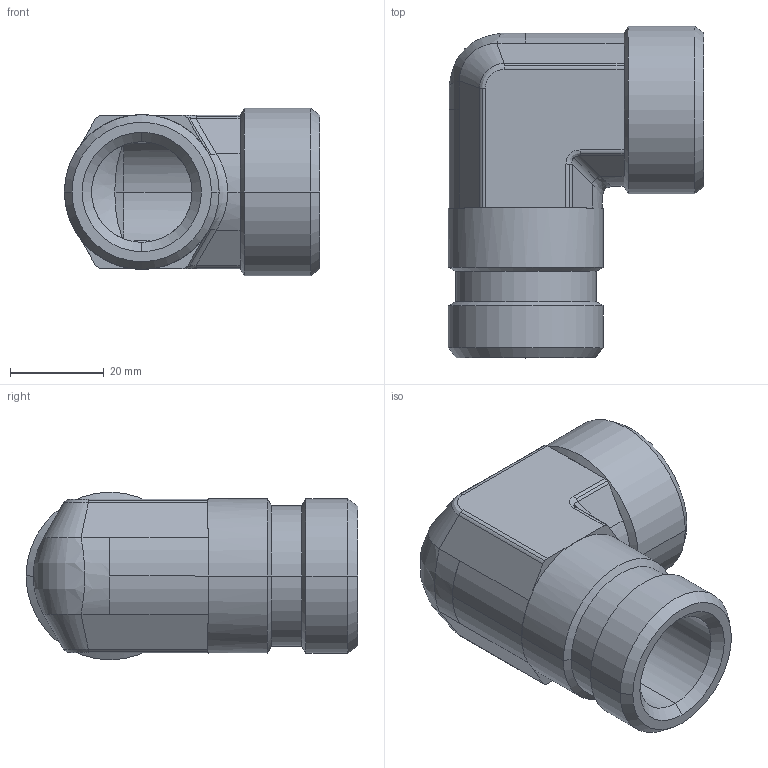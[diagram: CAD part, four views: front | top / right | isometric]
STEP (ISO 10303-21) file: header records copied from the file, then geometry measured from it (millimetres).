
FILE_DESCRIPTION((''),'2;1');
FILE_NAME('106111.stp','2007-10-31T14:50:24',(''),(''),'AutoCAD STEP 2000i','AutoCAD 2000i',', , ');
FILE_SCHEMA(('CONFIG_CONTROL_DESIGN'));
Length unit declared in the file: millimetre
Products named in the file (2): 106111.0; 3090#0
Assembly tree (1 placements, depth 2):
  106111.0
    3090#0
Bounding box: 54.53 x 70.91 x 35.82 mm (x, y, z)
Volume: 42497.2 mm3; surface area: 17139.5 mm2
Topology: 1 solids, 1 shells, 108 faces, 257 edges, 154 vertices
Faces by surface type: cylinder 46, plane 29, cone 21, bspline 12
Entity records: 4061 total; most frequent: CARTESIAN_POINT 1462, DIRECTION 542, ORIENTED_EDGE 514, EDGE_CURVE 257, AXIS2_PLACEMENT_3D 216, VERTEX_POINT 154, EDGE_LOOP 113, VECTOR 110
